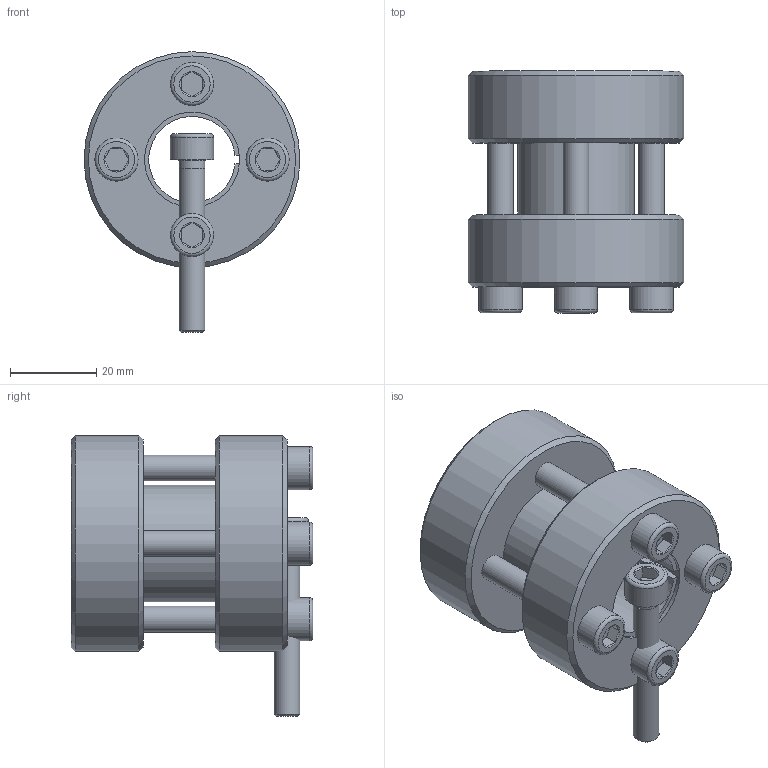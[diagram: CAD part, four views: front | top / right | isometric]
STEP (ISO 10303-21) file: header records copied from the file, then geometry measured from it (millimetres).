
FILE_DESCRIPTION( ( 'Unknown' ), '1' );
FILE_NAME( 'C:/Dokumente und Einstellungen/Sven/Desktop/homepage/cad - homepage/KBS95/KBS 95 - 20 x 50.stp', 'Unknown', ( 'Unknown' ), ( 'Unknown' ), 'XStep 1.0', 'Unknown', ' ' );
FILE_SCHEMA( ( 'automotive_design' ) );
Length unit declared in the file: millimetre
Products named in the file (3): Assem1; KBS 95 - 20 x 50; ISO EN DIN 4762 M6x40
Bounding box: 50 x 56 x 65 mm (x, y, z)
Volume: 117250 mm3; surface area: 41323.4 mm2
Topology: 7 solids, 7 shells, 181 faces, 379 edges, 232 vertices
Faces by surface type: plane 80, cone 47, cylinder 44, torus 10
Full cylindrical faces by diameter (mm): 5 x5, 6 x26, 10 x5, 50 x4
Entity records: 1702 total; most frequent: CARTESIAN_POINT 295, DIRECTION 252, ORIENTED_EDGE 190, AXIS2_PLACEMENT_3D 108, EDGE_LOOP 98, EDGE_CURVE 95, VERTEX_POINT 71, FACE_OUTER_BOUND 69
